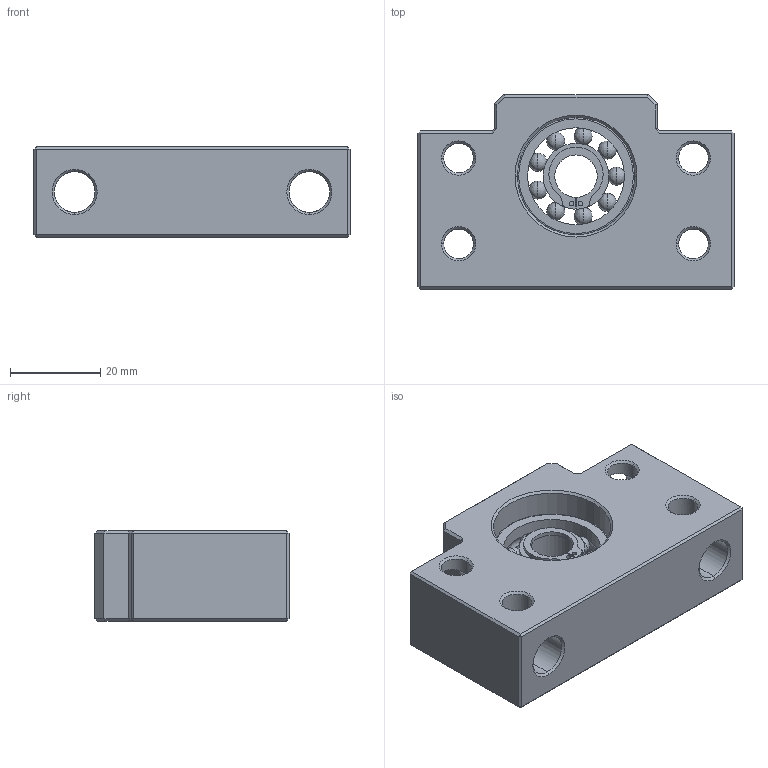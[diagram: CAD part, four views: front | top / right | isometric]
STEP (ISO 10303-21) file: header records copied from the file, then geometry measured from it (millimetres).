
FILE_DESCRIPTION (( 'STEP AP203' ), '1' );
FILE_NAME ('AF12.STEP', '2009-05-22T09:57:25', ( '冠犁泅' ), ( '俺惯何' ), 'SwSTEP 2.0', 'SolidWorks 2007', '' );
FILE_SCHEMA (( 'CONFIG_CONTROL_DESIGN' ));
Length unit declared in the file: millimetre
Products named in the file (4): AF12; SAF12_BODY_晦獄 撲薑; Heavy Duty External Retaining Ring_am_B27.8M - 3DM1-10_B27.8M - 3DM1-10; 6000_ル遽
Assembly tree (3 placements, depth 2):
  AF12
    Heavy Duty External Retaining Ring_am_B27.8M - 3DM1-10_B27.8M - 3DM1-10
    6000_ル遽
    SAF12_BODY_晦獄 撲薑
Bounding box: 70 x 43 x 20 mm (x, y, z)
Volume: 38627.3 mm3; surface area: 15452.4 mm2
Topology: 13 solids, 13 shells, 176 faces, 450 edges, 256 vertices
Faces by surface type: plane 60, cylinder 54, bspline 34, cone 28
Entity records: 6596 total; most frequent: CARTESIAN_POINT 2178, DIRECTION 840, ORIENTED_EDGE 828, EDGE_CURVE 414, AXIS2_PLACEMENT_3D 316, VERTEX_POINT 256, LINE 208, VECTOR 208
